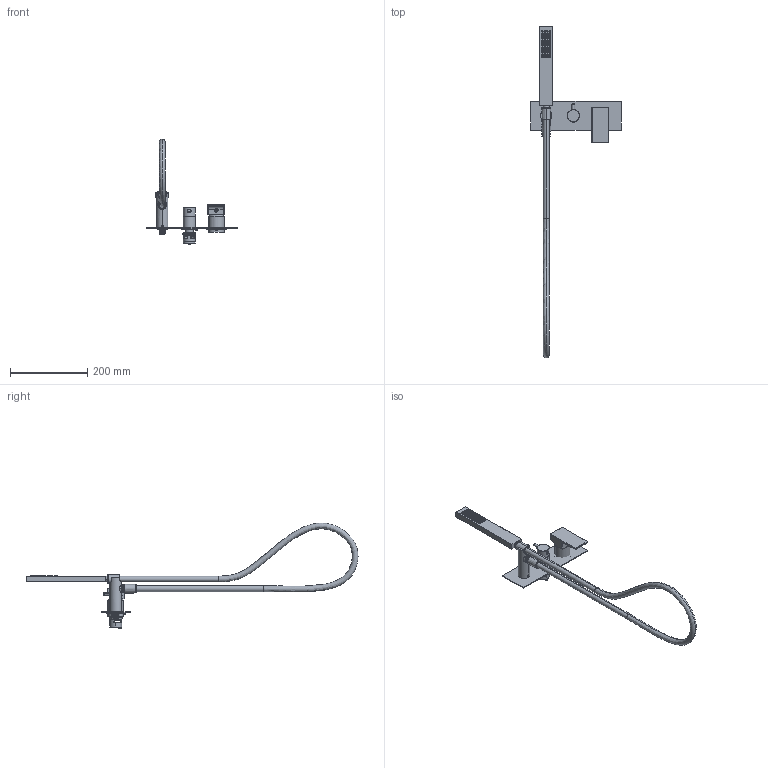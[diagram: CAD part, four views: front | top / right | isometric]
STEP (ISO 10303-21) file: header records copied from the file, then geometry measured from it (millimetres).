
FILE_DESCRIPTION((''),'2;1');
FILE_NAME('35529V3_SW0001','2023-06-01T11:02:36',('volponeff'),(''),'CREO PARAMETRIC BY PTC INC, 2022014','CREO PARAMETRIC BY PTC INC, 2022014','');
FILE_SCHEMA(('CONFIG_CONTROL_DESIGN'));
Length unit declared in the file: millimetre
Products named in the file (1): 35529V3_SW0001
Bounding box: 235 x 858.74 x 273.96 mm (x, y, z)
Surface area: 182758.8 mm2 (no closed solid volume)
Topology: 0 solids, 104 shells, 449 faces, 1232 edges, 832 vertices
Faces by surface type: cone 133, plane 113, cylinder 96, torus 74, bspline 26, sphere 7
Entity records: 18677 total; most frequent: CARTESIAN_POINT 7489, DIRECTION 2612, ORIENTED_EDGE 1941, EDGE_CURVE 1228, AXIS2_PLACEMENT_3D 1114, VERTEX_POINT 832, CIRCLE 691, EDGE_LOOP 449
